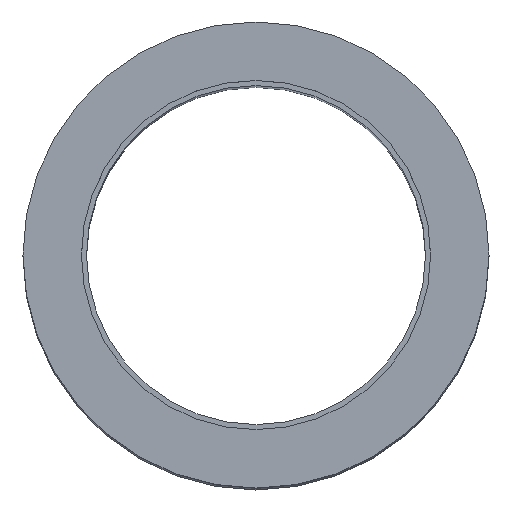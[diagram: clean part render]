
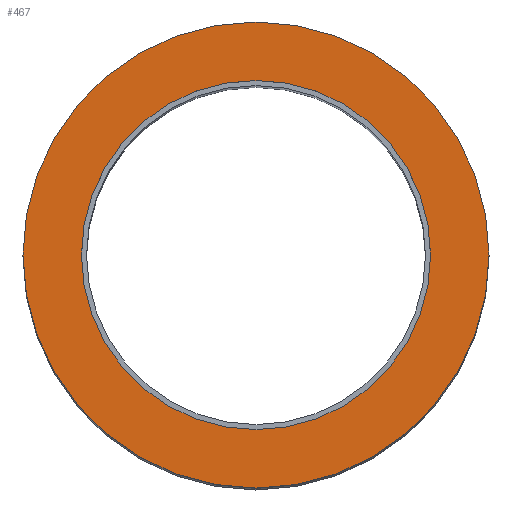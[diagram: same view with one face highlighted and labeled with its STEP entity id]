
A CAD part, top view. The second image highlights one B-rep face of the part: STEP entity #467.
In plain terms, the highlighted planar face has unit normal (0, 0, 1).
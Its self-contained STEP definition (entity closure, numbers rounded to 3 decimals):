
#2 = CIRCLE ( 'NONE', #424, 27.5 ) ;
#20 = VERTEX_POINT ( 'NONE', #522 ) ;
#26 = DIRECTION ( 'NONE',  ( 1., 0., 0. ) ) ;
#29 = PLANE ( 'NONE',  #418 ) ;
#45 = CARTESIAN_POINT ( 'NONE',  ( 0., 0., 0. ) ) ;
#50 = CIRCLE ( 'NONE', #434, 20.6 ) ;
#65 = VERTEX_POINT ( 'NONE', #322 ) ;
#71 = EDGE_LOOP ( 'NONE', ( #255, #667 ) ) ;
#72 = CARTESIAN_POINT ( 'NONE',  ( 0., 27.5, 0. ) ) ;
#93 = FACE_BOUND ( 'NONE', #566, .T. ) ;
#94 = ORIENTED_EDGE ( 'NONE', *, *, #523, .F. ) ;
#177 = CARTESIAN_POINT ( 'NONE',  ( 0., 0., 0. ) ) ;
#198 = DIRECTION ( 'NONE',  ( 0., 0., 1. ) ) ;
#215 = CIRCLE ( 'NONE', #595, 27.5 ) ;
#217 = EDGE_CURVE ( 'NONE', #65, #319, #2, .T. ) ;
#228 = EDGE_CURVE ( 'NONE', #649, #20, #539, .T. ) ;
#242 = DIRECTION ( 'NONE',  ( 1., 0., 0. ) ) ;
#255 = ORIENTED_EDGE ( 'NONE', *, *, #217, .T. ) ;
#272 = CARTESIAN_POINT ( 'NONE',  ( -27.5, 0., 0. ) ) ;
#319 = VERTEX_POINT ( 'NONE', #272 ) ;
#322 = CARTESIAN_POINT ( 'NONE',  ( 27.5, 0., 0. ) ) ;
#341 = DIRECTION ( 'NONE',  ( 0., 0., 1. ) ) ;
#370 = DIRECTION ( 'NONE',  ( 0., 0., 1. ) ) ;
#412 = CARTESIAN_POINT ( 'NONE',  ( -20.6, 0., 0. ) ) ;
#418 = AXIS2_PLACEMENT_3D ( 'NONE', #72, #458, #26 ) ;
#424 = AXIS2_PLACEMENT_3D ( 'NONE', #630, #370, #576 ) ;
#434 = AXIS2_PLACEMENT_3D ( 'NONE', #177, #341, #242 ) ;
#448 = AXIS2_PLACEMENT_3D ( 'NONE', #45, #198, #678 ) ;
#458 = DIRECTION ( 'NONE',  ( 0., 0., 1. ) ) ;
#467 = ADVANCED_FACE ( 'NONE', ( #503, #93 ), #29, .T. ) ;
#481 = EDGE_CURVE ( 'NONE', #319, #65, #215, .T. ) ;
#503 = FACE_OUTER_BOUND ( 'NONE', #71, .T. ) ;
#522 = CARTESIAN_POINT ( 'NONE',  ( 20.6, 0., 0. ) ) ;
#523 = EDGE_CURVE ( 'NONE', #20, #649, #50, .T. ) ;
#539 = CIRCLE ( 'NONE', #448, 20.6 ) ;
#560 = DIRECTION ( 'NONE',  ( 0., 0., 1. ) ) ;
#566 = EDGE_LOOP ( 'NONE', ( #94, #634 ) ) ;
#576 = DIRECTION ( 'NONE',  ( 1., 0., 0. ) ) ;
#595 = AXIS2_PLACEMENT_3D ( 'NONE', #669, #560, #659 ) ;
#630 = CARTESIAN_POINT ( 'NONE',  ( 0., 0., 0. ) ) ;
#634 = ORIENTED_EDGE ( 'NONE', *, *, #228, .F. ) ;
#649 = VERTEX_POINT ( 'NONE', #412 ) ;
#659 = DIRECTION ( 'NONE',  ( 1., 0., 0. ) ) ;
#667 = ORIENTED_EDGE ( 'NONE', *, *, #481, .T. ) ;
#669 = CARTESIAN_POINT ( 'NONE',  ( 0., 0., 0. ) ) ;
#678 = DIRECTION ( 'NONE',  ( 1., 0., 0. ) ) ;
